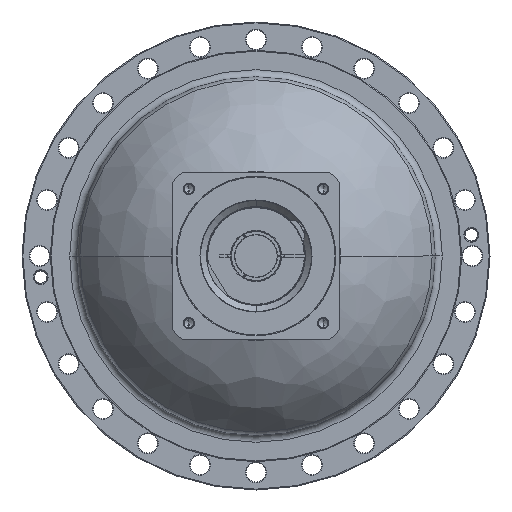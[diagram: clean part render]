
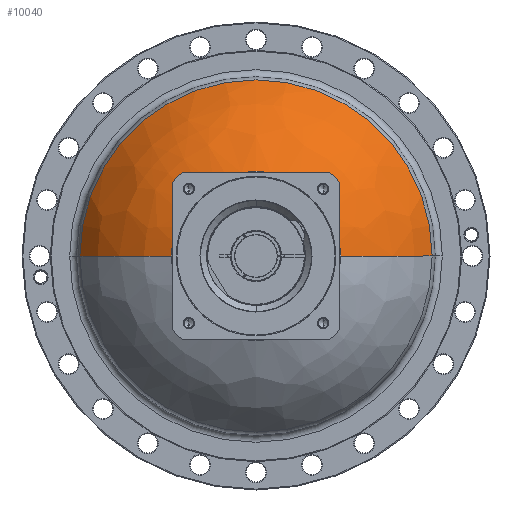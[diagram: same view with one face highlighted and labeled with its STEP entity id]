
A CAD part, left-side view. The second image highlights one B-rep face of the part: STEP entity #10040.
In plain terms, the highlighted free-form (B-spline) face has degree [3, 3] with [7, 4] control points.
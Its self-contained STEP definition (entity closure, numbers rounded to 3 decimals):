
#9548=CARTESIAN_POINT('',(-12.041,0.,0.));
#9549=DIRECTION('',(-1.,0.,0.));
#9550=DIRECTION('',(0.,-1.,0.));
#9551=AXIS2_PLACEMENT_3D('',#9548,#9549,#9550);
#9553=CARTESIAN_POINT('',(-97.122,0.,0.));
#9554=DIRECTION('',(1.,0.,0.));
#9555=DIRECTION('',(0.,1.,0.));
#9556=AXIS2_PLACEMENT_3D('',#9553,#9554,#9555);
#9563=CARTESIAN_POINT('',(-200.149,28.006,0.));
#9564=DIRECTION('',(0.,0.,-1.));
#9565=DIRECTION('',(0.515,0.857,0.));
#9566=AXIS2_PLACEMENT_3D('',#9563,#9564,#9565);
#9573=CARTESIAN_POINT('',(-200.149,-28.006,0.));
#9574=DIRECTION('',(0.,0.,1.));
#9575=DIRECTION('',(0.515,-0.857,0.));
#9576=AXIS2_PLACEMENT_3D('',#9573,#9574,#9575);
#9810=CARTESIAN_POINT('',(-97.122,199.428,
0.));
#9811=CARTESIAN_POINT('',(-97.122,-199.428,0.));
#9812=VERTEX_POINT('',#9810);
#9813=VERTEX_POINT('',#9811);
#9822=CARTESIAN_POINT('',(-12.041,95.943,
0.));
#9823=CARTESIAN_POINT('',(-12.041,-95.943,
0.));
#9824=VERTEX_POINT('',#9822);
#9825=VERTEX_POINT('',#9823);
#10002=CARTESIAN_POINT('',(-99.473,200.423,
-12.61));
#10003=CARTESIAN_POINT('',(-57.668,176.116,
-11.08));
#10004=CARTESIAN_POINT('',(-26.942,138.818,
-8.734));
#10005=CARTESIAN_POINT('',(-11.131,93.183,
-5.863));
#10006=CARTESIAN_POINT('',(-99.473,208.183,
110.73));
#10007=CARTESIAN_POINT('',(-57.668,182.935,
97.301));
#10008=CARTESIAN_POINT('',(-26.942,144.192,
76.694));
#10009=CARTESIAN_POINT('',(-11.131,96.79,
51.482));
#10010=CARTESIAN_POINT('',(-99.473,123.584,
200.819));
#10011=CARTESIAN_POINT('',(-57.668,108.596,
176.465));
#10012=CARTESIAN_POINT('',(-26.942,85.597,
139.092));
#10013=CARTESIAN_POINT('',(-11.131,57.458,
93.367));
#10014=CARTESIAN_POINT('',(-99.473,0.,200.819));
#10015=CARTESIAN_POINT('',(-57.668,0.,176.465));
#10016=CARTESIAN_POINT('',(-26.942,0.,
139.092));
#10017=CARTESIAN_POINT('',(-11.131,0.,
93.367));
#10018=CARTESIAN_POINT('',(-99.473,-123.584,
200.819));
#10019=CARTESIAN_POINT('',(-57.668,-108.596,
176.465));
#10020=CARTESIAN_POINT('',(-26.942,-85.597,
139.092));
#10021=CARTESIAN_POINT('',(-11.131,-57.458,
93.367));
#10022=CARTESIAN_POINT('',(-99.473,-208.183,
110.73));
#10023=CARTESIAN_POINT('',(-57.668,-182.935,
97.301));
#10024=CARTESIAN_POINT('',(-26.942,-144.192,
76.694));
#10025=CARTESIAN_POINT('',(-11.131,-96.79,
51.482));
#10026=CARTESIAN_POINT('',(-99.473,-200.423,
-12.61));
#10027=CARTESIAN_POINT('',(-57.668,-176.116,
-11.08));
#10028=CARTESIAN_POINT('',(-26.942,-138.818,
-8.734));
#10029=CARTESIAN_POINT('',(-11.131,-93.183,
-5.863));
#10030=(BOUNDED_SURFACE()B_SPLINE_SURFACE(3,3,((#10002,#10003,#10004,#10005),(
#10006,#10007,#10008,#10009),(#10010,#10011,#10012,#10013),(#10014,#10015,
#10016,#10017),(#10018,#10019,#10020,#10021),(#10022,#10023,#10024,#10025),(
#10026,#10027,#10028,#10029)),.UNSPECIFIED.,.F.,.F.,.F.)B_SPLINE_SURFACE_WITH_KNOTS((4,3,4),(4,4),(0.,1.,2.),(0.,1.),.UNSPECIFIED.)GEOMETRIC_REPRESENTATION_ITEM()RATIONAL_B_SPLINE_SURFACE(((1.226,1.175,
1.175,1.226),(0.968,0.928,
0.928,0.968),(0.968,0.928,
0.928,0.968),(1.226,1.175,
1.175,1.226),(0.968,0.928,
0.928,0.968),(0.968,0.928,
0.928,0.968),(1.226,1.175,
1.175,1.226)))REPRESENTATION_ITEM('')SURFACE());
#10031=ORIENTED_EDGE('',*,*,#9996,.F.);
#10033=ORIENTED_EDGE('',*,*,#10032,.F.);
#10035=ORIENTED_EDGE('',*,*,#10034,.F.);
#10037=ORIENTED_EDGE('',*,*,#10036,.T.);
#10038=EDGE_LOOP('',(#10031,#10033,#10035,#10037));
#10039=FACE_OUTER_BOUND('',#10038,.F.);
#10040=ADVANCED_FACE('',(#10039),#10030,.T.);
#9552=CIRCLE('',#9551,95.943);
#9557=CIRCLE('',#9556,199.428);
#9567=CIRCLE('',#9566,200.);
#9577=CIRCLE('',#9576,200.);
#9996=EDGE_CURVE('',#9825,#9824,#9552,.T.);
#10032=EDGE_CURVE('',#9813,#9825,#9577,.T.);
#10034=EDGE_CURVE('',#9812,#9813,#9557,.T.);
#10036=EDGE_CURVE('',#9812,#9824,#9567,.T.);
